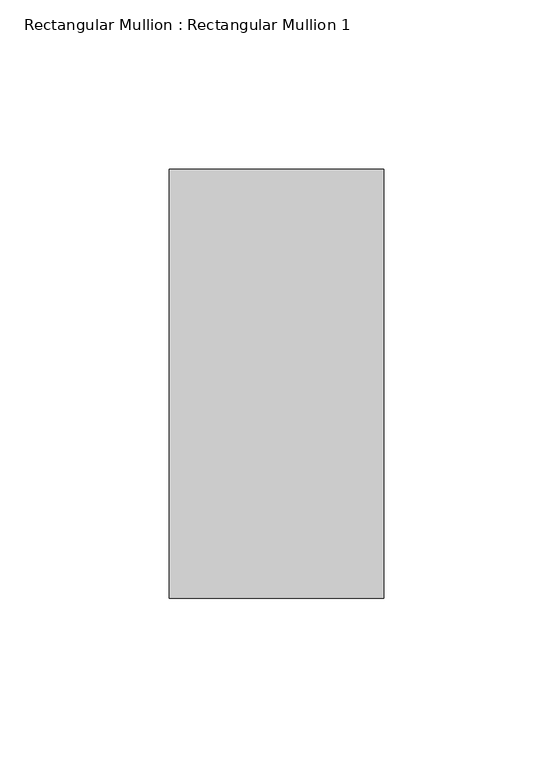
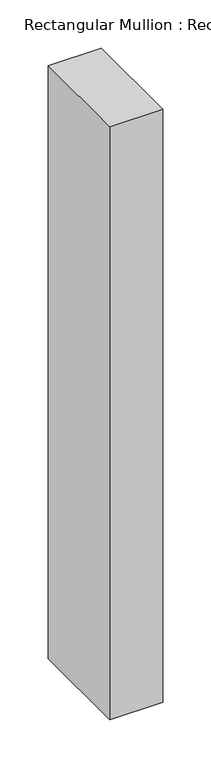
"""IFC4 building model written with IfcOpenShell, lengths in millimetres: member geometry, Rectangular Mullion : Rectangular Mullion 1."""

from ifc_helpers import new_model, si_unit, frame, origin, place, context, project, spatial, polyline, outline, extrude, source, transform, mapped, element, save


def rectangular_mullion_rectangular_mullion_1_28b96d86(model_context):
    return source(origin(), model_context, "Body", "SweptSolid", [
        extrude(outline(polyline([(0.0, 63.5), (0.0, -63.5), (-63.5, -63.5), (-63.5, 63.5), (0.0, 63.5)])), frame((0.0, 0.0, -750.0), z_axis=(0.0, 0.0, 1.0), x_axis=(1.0, 0.0, 0.0)), (0.0, 0.0, 1.0), 750.0),
    ])


if __name__ == "__main__":
    model = new_model("IFC4")
    model_context = context("Model", 3, world=origin())
    ifc_project = project(units=[si_unit("LENGTHUNIT", "METRE", prefix="MILLI")], contexts=[model_context])
    site = spatial("IfcSite", under=ifc_project)
    building = spatial("IfcBuilding", under=site)
    placement = place(None, origin())
    rectangular_mullion_rectangular_mullion_1_shape = rectangular_mullion_rectangular_mullion_1_28b96d86(model_context)
    element("IfcMember", 1, ObjectType="Rectangular Mullion : Rectangular Mullion 1", at=placement, inside=building, context=model_context, shape_type="MappedRepresentation", body=[
        mapped(rectangular_mullion_rectangular_mullion_1_shape, transform((0.0, 0.0, 0.0), x_axis=(1.0, 0.0, 0.0), y_axis=(0.0, 1.0, 0.0), z_axis=(0.0, 0.0, 1.0))),
    ])
    save(model, "model.ifc")
